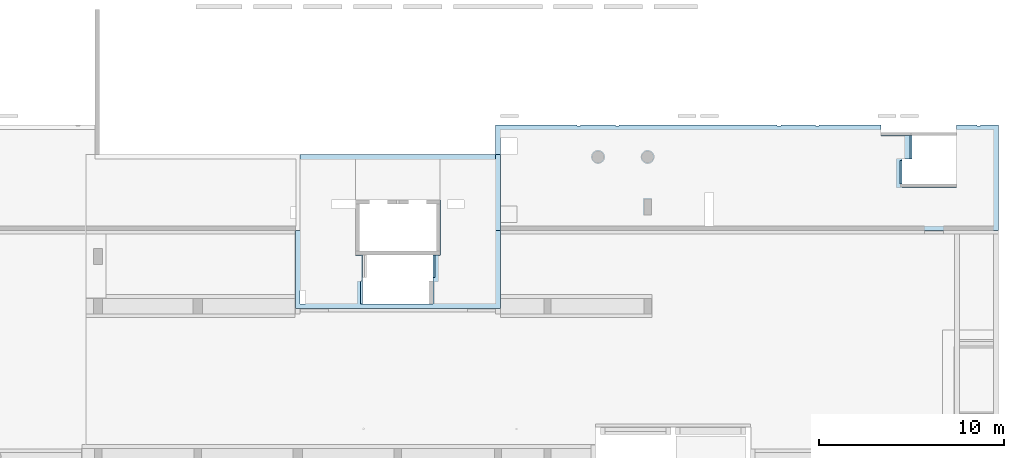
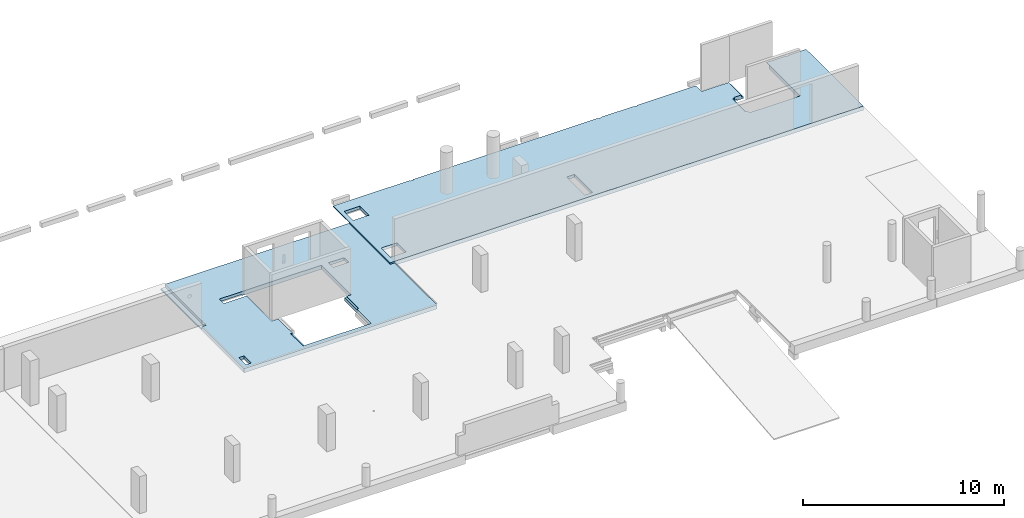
# One storey, part 9 of 10: 2 slabs.
"""IFC2X3 building model written with IfcOpenShell, lengths in millimetres."""

import ifcopenshell
import ifcopenshell.guid

model = None  # the IFC model being written
_history = None  # IfcOwnerHistory: only IFC2X3 demands one
_inside = {}  # id of a spatial element -> (the spatial element, [elements in it])
_under = {}  # id of a project, library or spatial element -> (it, [spatial elements below it])
_declared = {}  # id of a project -> (the project, [libraries it declares])
_typed = {}  # id of a type object -> (the type object, [elements of that type])
_made_of = {}  # id of a material, layer set ... -> (it, [elements and type objects made of it])


def new_model(schema):
    """Start an empty IFC model of exactly this schema.

    Asked for "IFC4X3", IfcOpenShell would pick the latest addendum, in which some entities
    have other attributes; the version numbers below select the first issue.
    IFC2X3 requires an IfcOwnerHistory on every rooted entity: one is made here for all.
    """
    global model, _history
    if schema == "IFC4X3":
        model = ifcopenshell.file(schema_version=(4, 3, 0, 0))
    else:
        model = ifcopenshell.file(schema=schema)
    _inside.clear()
    _under.clear()
    _declared.clear()
    _typed.clear()
    _made_of.clear()
    _history = None
    if model.schema == "IFC2X3":
        org = make("IfcOrganization", Name="unknown")
        user = make(
            "IfcPersonAndOrganization",
            ThePerson=make("IfcPerson", FamilyName="unknown"),
            TheOrganization=org,
        )
        app = make(
            "IfcApplication",
            ApplicationDeveloper=org,
            Version="unknown",
            ApplicationFullName="unknown",
            ApplicationIdentifier="unknown",
        )
        _history = make(
            "IfcOwnerHistory",
            OwningUser=user,
            OwningApplication=app,
            ChangeAction="ADDED",
            CreationDate=0,
        )
    return model


def make(cls, **values):
    """One entity of the class cls with the attributes given. An attribute that is None is left unset."""
    return model.create_entity(
        cls, **{name: value for name, value in values.items() if value is not None}
    )


def entity(cls, *values):
    """Any entity or typed value of the class cls, its attributes in the order of the schema. None: left unset."""
    e = model.create_entity(cls)
    for i, value in enumerate(values):
        if value is not None:
            e[i] = value
    return e


def rooted(cls, **values):
    """An entity with a GlobalId (a new one), such as an element, a storey or a relation."""
    return make(cls, GlobalId=ifcopenshell.guid.new(), OwnerHistory=_history, **values)


def si_unit(unit_type, name, prefix=None):
    """IfcSIUnit, for example si_unit("LENGTHUNIT", "METRE", prefix="MILLI")."""
    return make("IfcSIUnit", UnitType=unit_type, Prefix=prefix, Name=name)


def converted_unit(unit_type, name, factor, base, dimensions=None, offset=None):
    """IfcConversionBasedUnit, such as the inch: factor (a typed value) times the base unit."""
    return make(
        "IfcConversionBasedUnit"
        if offset is None
        else "IfcConversionBasedUnitWithOffset",
        ConversionOffset=offset,
        Dimensions=None
        if dimensions is None
        else entity("IfcDimensionalExponents", *dimensions),
        UnitType=unit_type,
        Name=name,
        ConversionFactor=make(
            "IfcMeasureWithUnit", ValueComponent=factor, UnitComponent=base
        ),
    )


def derived_unit(unit_type, elements):
    """IfcDerivedUnit: a product of units, each with its exponent."""
    return make(
        "IfcDerivedUnit",
        Elements=[
            make("IfcDerivedUnitElement", Unit=unit, Exponent=power)
            for unit, power in elements
        ],
        UnitType=unit_type,
    )


def assignment(units):
    """IfcUnitAssignment: the units of a project."""
    return None if units is None else make("IfcUnitAssignment", Units=units)


def point(xyz):
    """IfcCartesianPoint."""
    return None if xyz is None else make("IfcCartesianPoint", Coordinates=xyz)


def direction(xyz):
    """IfcDirection."""
    return None if xyz is None else make("IfcDirection", DirectionRatios=xyz)


def frame(location, z_axis=None, x_axis=None):
    """IfcAxis2Placement3D, a coordinate frame: its origin and axes. An axis left out is left unset."""
    return make(
        "IfcAxis2Placement3D",
        Location=point(location),
        Axis=direction(z_axis),
        RefDirection=direction(x_axis),
    )


def origin():
    """The frame at (0, 0, 0) with its axes left unset."""
    return frame((0.0, 0.0, 0.0))


def place(relative_to, where):
    """IfcLocalPlacement: puts the frame where relative to a parent placement (None: the world)."""
    return make(
        "IfcLocalPlacement", PlacementRelTo=relative_to, RelativePlacement=where
    )


def context(
    kind, dimensions, precision=None, world=None, true_north=None, identifier=None
):
    """IfcGeometricRepresentationContext, for example the 3D "Model" context."""
    return make(
        "IfcGeometricRepresentationContext",
        ContextIdentifier=identifier,
        ContextType=kind,
        CoordinateSpaceDimension=dimensions,
        Precision=precision,
        WorldCoordinateSystem=world,
        TrueNorth=true_north,
    )


def subcontext(parent, identifier, kind, view, scale=None):
    """IfcGeometricRepresentationSubContext, for example "Body" below "Model"."""
    return make(
        "IfcGeometricRepresentationSubContext",
        ContextIdentifier=identifier,
        ContextType=kind,
        ParentContext=parent,
        TargetScale=scale,
        TargetView=view,
    )


def project(units=None, contexts=None):
    """IfcProject with its units and contexts."""
    return rooted(
        "IfcProject",
        Name="project",
        RepresentationContexts=contexts,
        UnitsInContext=assignment(units),
    )


def spatial(cls, under=None, at=None, **own):
    """A site, building, storey or space (cls), placed at a placement, below another one or the project."""
    s = rooted(cls, ObjectPlacement=at, **own)
    if under is not None:
        _under.setdefault(under.id(), (under, []))[1].append(s)
    return s


def faces_of(points, faces, orient=None, outer=None):
    """IfcFace entities. A face is a list of loops; a loop is a list of indices into points, from 0.

    orient and outer hold one flag for each loop. By default every Orientation is true, the
    first loop of a face is its IfcFaceOuterBound and the others are IfcFaceBound.
    """
    made = []
    for i, loops in enumerate(faces):
        bounds = []
        for j, loop in enumerate(loops):
            is_outer = j == 0 if outer is None else outer[i][j]
            bounds.append(
                make(
                    "IfcFaceOuterBound" if is_outer else "IfcFaceBound",
                    Bound=make("IfcPolyLoop", Polygon=[points[k] for k in loop]),
                    Orientation=True if orient is None else orient[i][j],
                )
            )
        made.append(make("IfcFace", Bounds=bounds))
    return made


def faceted_brep(points, faces, orient=None, outer=None, voids=None):
    """IfcFacetedBrep: a solid bounded by flat faces; with voids (closed shells), ...WithVoids."""
    shared = [point(p) for p in points]
    hull = make("IfcClosedShell", CfsFaces=faces_of(shared, faces, orient, outer))
    if voids is None:
        return make("IfcFacetedBrep", Outer=hull)
    return make(
        "IfcFacetedBrepWithVoids",
        Outer=hull,
        Voids=[
            make(cls, CfsFaces=faces_of(shared, fs, o, b)) for cls, fs, o, b in voids
        ],
    )


def shape(context_of_items, identifier, shape_type, items):
    """IfcShapeRepresentation: the items that make up one representation, for example the "Body"."""
    return make(
        "IfcShapeRepresentation",
        ContextOfItems=context_of_items,
        RepresentationIdentifier=identifier,
        RepresentationType=shape_type,
        Items=items,
    )


def material(Name=None, Category=None):
    """IfcMaterial."""
    return make("IfcMaterial", Name=Name, Category=Category)


def made_of(thing, what):
    """Note that an element or type object is made of a material, layer set ...; save() writes the relation."""
    if what is not None:
        _made_of.setdefault(what.id(), (what, []))[1].append(thing)
    return thing


def element(
    cls,
    number,
    at=None,
    inside=None,
    cuts=None,
    type_object=None,
    material=None,
    context=None,
    identifier="Body",
    shape_type=None,
    held_by="IfcProductDefinitionShape",
    body=None,
    shapes=None,
    **own,
):
    """One element of the class cls, such as IfcWall. Its Tag is "e" and its number.

    at: its placement. inside: the storey or other place that contains it. cuts: it is an
    opening in that element (IfcRelVoidsElement). A single representation is given by context,
    identifier, shape_type and body (its items); several are given by shapes. held_by: the class
    of the entity that holds the representations. save() writes the other relations.
    """
    e = rooted(cls, Tag="e%d" % number, ObjectPlacement=at, **own)
    if body is not None:
        shapes = [shape(context, identifier, shape_type, body)]
    if shapes is not None:
        e.Representation = make(held_by, Representations=shapes)
    if inside is not None:
        _inside.setdefault(inside.id(), (inside, []))[1].append(e)
    if cuts is not None:
        rooted(
            "IfcRelVoidsElement", RelatingBuildingElement=cuts, RelatedOpeningElement=e
        )
    if type_object is not None:
        _typed.setdefault(type_object.id(), (type_object, []))[1].append(e)
    return made_of(e, material)


def aggregate(whole, parts):
    """IfcRelAggregates: a whole, such as a stair, and the parts it consists of."""
    return rooted("IfcRelAggregates", RelatingObject=whole, RelatedObjects=parts)


def save(model, path):
    """Write the relations noted so far, then the file.

    IfcRelAggregates (storeys below a building ...), IfcRelContainedInSpatialStructure (elements
    in a storey), IfcRelDefinesByType, IfcRelAssociatesMaterial and IfcRelDeclares: one each for
    every whole, place, type object, material and project.
    """
    for whole, parts in _under.values():
        aggregate(whole, parts)
    for where, things in _inside.values():
        rooted(
            "IfcRelContainedInSpatialStructure",
            RelatedElements=things,
            RelatingStructure=where,
        )
    for kind, things in _typed.values():
        rooted("IfcRelDefinesByType", RelatedObjects=things, RelatingType=kind)
    for what, things in _made_of.values():
        rooted("IfcRelAssociatesMaterial", RelatedObjects=things, RelatingMaterial=what)
    for by, libraries in _declared.values():
        rooted("IfcRelDeclares", RelatingContext=by, RelatedDefinitions=libraries)
    model.write(path)


model = new_model("IFC2X3")

# Units and contexts
model_context = context("Model", 3, precision=0.01, world=origin(), true_north=direction((6.12303176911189e-17, 1.0)))
body_context = subcontext(model_context, "Body", "Model", "MODEL_VIEW")
ifc_project = project(units=[si_unit("LENGTHUNIT", "METRE", prefix="MILLI"), si_unit("AREAUNIT", "SQUARE_METRE"), si_unit("VOLUMEUNIT", "CUBIC_METRE"), converted_unit("PLANEANGLEUNIT", "DEGREE", entity("IfcRatioMeasure", 0.0174532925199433), si_unit("PLANEANGLEUNIT", "RADIAN"), dimensions=[0, 0, 0, 0, 0, 0, 0]), si_unit("MASSUNIT", "GRAM", prefix="KILO"), derived_unit("MASSDENSITYUNIT", [(si_unit("MASSUNIT", "GRAM", prefix="KILO"), 1), (si_unit("LENGTHUNIT", "METRE"), -3)]), si_unit("TIMEUNIT", "SECOND"), si_unit("FREQUENCYUNIT", "HERTZ"), si_unit("THERMODYNAMICTEMPERATUREUNIT", "DEGREE_CELSIUS"), derived_unit("THERMALTRANSMITTANCEUNIT", [(si_unit("MASSUNIT", "GRAM", prefix="KILO"), 1), (si_unit("THERMODYNAMICTEMPERATUREUNIT", "KELVIN"), -1), (si_unit("TIMEUNIT", "SECOND"), -3)]), derived_unit("VOLUMETRICFLOWRATEUNIT", [(si_unit("LENGTHUNIT", "METRE"), 3), (si_unit("TIMEUNIT", "SECOND"), -1)]), si_unit("ELECTRICCURRENTUNIT", "AMPERE"), si_unit("ELECTRICVOLTAGEUNIT", "VOLT"), si_unit("POWERUNIT", "WATT"), si_unit("FORCEUNIT", "NEWTON", prefix="KILO"), si_unit("ILLUMINANCEUNIT", "LUX"), si_unit("LUMINOUSFLUXUNIT", "LUMEN"), si_unit("LUMINOUSINTENSITYUNIT", "CANDELA"), derived_unit("USERDEFINED", [(si_unit("MASSUNIT", "GRAM", prefix="KILO"), -1), (si_unit("LENGTHUNIT", "METRE"), -2), (si_unit("TIMEUNIT", "SECOND"), 3), (si_unit("LUMINOUSFLUXUNIT", "LUMEN"), 1)]), derived_unit("LINEARVELOCITYUNIT", [(si_unit("LENGTHUNIT", "METRE"), 1), (si_unit("TIMEUNIT", "SECOND"), -1)]), si_unit("PRESSUREUNIT", "PASCAL"), derived_unit("USERDEFINED", [(si_unit("LENGTHUNIT", "METRE"), -2), (si_unit("MASSUNIT", "GRAM", prefix="KILO"), 1), (si_unit("TIMEUNIT", "SECOND"), -2)])], contexts=[model_context])

# Site, building, storey
site_placement = place(None, origin())
site = spatial("IfcSite", under=ifc_project, at=site_placement, Name="Default", CompositionType="ELEMENT")
building_placement = place(site_placement, origin())
building = spatial("IfcBuilding", under=site, at=building_placement, Name="niet gebruiken", CompositionType="ELEMENT")
storey_placement = place(building_placement, frame((0.0, 0.0, 6610.0)))
storey = spatial("IfcBuildingStorey", under=building, at=storey_placement, Name="01c derde tussenverdieping", CompositionType="ELEMENT", Elevation=6610.0)

# Slabs
ifc_material = material(Name="NLRS_f2_beton ihwg")
slab_1_placement = place(storey_placement, origin())
element("IfcSlab", 1, at=slab_1_placement, inside=storey, material=ifc_material, Name="Floor:NLRS_23.21_FL_breedplaat d=70/250_schil apart - gevlinderd_gen", ObjectType="Floor:NLRS_23.21_FL_breedplaat d=70/250_schil apart - gevlinderd_gen", PredefinedType="FLOOR", context=body_context, shape_type="Brep", body=[
    faceted_brep([(117880.0, 46496.0, -250.0), (117860.0, 46496.0, -250.0), (117860.0, 46496.0, -180.0), (97325.0, 46496.0, -180.0), (97325.0, 46496.0, -40.0), (117880.0, 46496.0, -40.0), (123970.0, 46496.0, -180.0), (121950.0, 46496.0, -180.0), (121950.0, 46496.0, -250.0), (121930.0, 46496.0, -250.0), (121930.0, 46496.0, -40.0), (124200.0, 46496.0, -40.0), (124200.0, 46496.0, -250.0), (123970.0, 46496.0, -250.0), (105495.0, 42776.0, -250.0), (105495.0, 41886.0, -250.0), (105055.0, 41886.0, -250.0), (105055.0, 42776.0, -250.0), (105591.376563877, 44957.1143943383, -250.0), (105562.753127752, 44883.2287886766, -250.0), (105529.958076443, 44798.5750029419, -250.0), (105458.260411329, 44770.799179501, -250.0), (105386.562746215, 44743.0233560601, -250.0), (105314.865081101, 44715.2475326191, -250.0), (105243.167415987, 44687.4717091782, -250.0), (105187.38604288, 44715.2475326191, -250.0), (105131.604669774, 44743.0233560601, -250.0), (105075.823296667, 44770.799179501, -250.0), (105020.041923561, 44798.5750029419, -250.0), (104997.531442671, 44856.6812522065, -250.0), (104975.020961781, 44914.787501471, -250.0), (104958.623436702, 44957.1143928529, -250.0), (104930.0, 45031.0, -250.0), (104958.623436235, 45104.8856059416, -250.0), (104987.246872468, 45178.7712118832, -250.0), (105020.041923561, 45263.4249970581, -250.0), (105091.739588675, 45291.200820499, -250.0), (105163.437253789, 45318.9766439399, -250.0), (105235.134918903, 45346.7524673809, -250.0), (105306.832584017, 45374.5282908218, -250.0), (105362.613957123, 45346.7524673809, -250.0), (105418.39533023, 45318.9766439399, -250.0), (105474.176703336, 45291.200820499, -250.0), (105529.958076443, 45263.4249970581, -250.0), (105552.468557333, 45205.3187477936, -250.0), (105574.979038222, 45147.212498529, -250.0), (105591.376563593, 45104.8856063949, -250.0), (105620.0, 45031.0, -250.0), (121950.0, 43376.0, -250.0), (118710.0, 43376.0, -250.0), (118710.0, 44926.0, -250.0), (119005.0, 44926.0, -250.0), (119005.0, 43396.0, -250.0), (121930.0, 43396.0, -250.0), (119545.0, 44926.0, -250.0), (119175.0, 44926.0, -250.0), (119175.0, 46156.0, -250.0), (117860.0, 46156.0, -250.0), (117880.0, 46176.0, -250.0), (119545.0, 46176.0, -250.0), (102916.376563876, 44957.1143943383, -250.0), (102887.753127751, 44883.2287886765, -250.0), (102854.958076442, 44798.5750029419, -250.0), (102783.260411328, 44770.799179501, -250.0), (102711.562746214, 44743.0233560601, -250.0), (102639.8650811, 44715.2475326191, -250.0), (102568.167415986, 44687.4717091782, -250.0), (102512.386042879, 44715.2475326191, -250.0), (102456.604669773, 44743.0233560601, -250.0), (102400.823296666, 44770.799179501, -250.0), (102345.04192356, 44798.5750029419, -250.0), (102322.53144267, 44856.6812522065, -250.0), (102300.02096178, 44914.787501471, -250.0), (102283.623436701, 44957.1143928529, -250.0), (102255.0, 45031.0, -250.0), (102283.623436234, 45104.8856059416, -250.0), (102312.246872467, 45178.7712118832, -250.0), (102345.04192356, 45263.4249970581, -250.0), (102416.739588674, 45291.200820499, -250.0), (102488.437253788, 45318.9766439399, -250.0), (102560.134918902, 45346.7524673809, -250.0), (102631.832584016, 45374.5282908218, -250.0), (102687.613957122, 45346.7524673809, -250.0), (102743.395330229, 45318.9766439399, -250.0), (102799.176703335, 45291.200820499, -250.0), (102854.958076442, 45263.4249970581, -250.0), (102877.468557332, 45205.3187477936, -250.0), (102899.979038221, 45147.212498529, -250.0), (102916.376563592, 45104.8856063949, -250.0), (102945.0, 45031.0, -250.0), (124200.0, 41061.0, -250.0), (123950.0, 41061.0, -250.0), (97325.0, 41061.0, -250.0), (97075.0, 41061.0, -250.0), (97075.0, 45156.0, -250.0), (97305.0, 45156.0, -250.0), (97305.0, 42386.0, -250.0), (97325.0, 42386.0, -250.0), (97325.0, 41486.0, -250.0), (97305.0, 41486.0, -250.0), (97305.0, 41291.0, -250.0), (108375.0, 41291.0, -250.0), (108375.0, 41311.0, -250.0), (108825.0, 41311.0, -250.0), (108825.0, 41291.0, -250.0), (123970.0, 41291.0, -250.0), (117705.0, 46746.0, -40.0), (114535.0, 46746.0, -40.0), (114535.0, 46746.0, 0.0), (117880.0, 46746.0, 0.0), (117880.0, 46746.0, -40.0), (114335.0, 46746.0, -40.0), (112465.0, 46746.0, -40.0), (112465.0, 46746.0, 0.0), (114335.0, 46746.0, 0.0), (106905.0, 46746.0, -40.0), (103735.0, 46746.0, -40.0), (103735.0, 46746.0, 0.0), (112265.0, 46746.0, 0.0), (112265.0, 46746.0, -40.0), (109095.0, 46746.0, -40.0), (108125.0, 46746.0, -40.0), (107875.0, 46746.0, -40.0), (103535.0, 46746.0, -40.0), (101665.0, 46746.0, -40.0), (101665.0, 46746.0, 0.0), (103535.0, 46746.0, 0.0), (124200.0, 46746.0, -40.0), (123240.0, 46746.0, -40.0), (123240.0, 46746.0, 0.0), (123950.0, 46746.0, 0.0), (124200.0, 46746.0, 0.0), (97325.0, 46746.0, -40.0), (97075.0, 46746.0, -40.0), (97075.0, 46746.0, 0.0), (97325.0, 46746.0, 0.0), (101465.0, 46746.0, 0.0), (101465.0, 46746.0, -40.0), (98295.0, 46746.0, -40.0), (123040.0, 46746.0, -40.0), (121930.0, 46746.0, -40.0), (121930.0, 46746.0, 0.0), (123040.0, 46746.0, 0.0), (112265.0, 46706.0, -40.0), (112465.0, 46706.0, -40.0), (114335.0, 46706.0, -40.0), (114535.0, 46706.0, -40.0), (97325.0, 46056.0, -40.0), (97325.0, 45156.0, -40.0), (97075.0, 45156.0, -40.0), (101465.0, 46706.0, -40.0), (101665.0, 46706.0, -40.0), (103535.0, 46706.0, -40.0), (103735.0, 46706.0, -40.0), (123040.0, 46706.0, -40.0), (123240.0, 46706.0, -40.0), (97075.0, 41061.0, 0.0), (97325.0, 41061.0, 0.0), (97325.0, 41486.0, 0.0), (97325.0, 42386.0, 0.0), (97325.0, 45156.0, 0.0), (98225.0, 41486.0, 0.0), (108375.0, 41311.0, 0.0), (108825.0, 41311.0, 0.0), (120225.0, 41061.0, 0.0), (119005.0, 43396.0, 0.0), (121930.0, 43396.0, 0.0), (121250.0, 41061.0, 0.0), (123950.0, 41061.0, 0.0), (124200.0, 41061.0, 0.0), (123240.0, 46706.0, 0.0), (123040.0, 46706.0, 0.0), (121930.0, 46496.0, 0.0), (118895.0, 43576.0, 0.0), (119005.0, 43576.0, 0.0), (114335.0, 46706.0, 0.0), (114535.0, 46706.0, 0.0), (117880.0, 46176.0, 0.0), (118895.0, 44846.0, 0.0), (119005.0, 44926.0, 0.0), (119005.0, 44846.0, 0.0), (119435.0, 46176.0, 0.0), (119435.0, 44926.0, 0.0), (117880.0, 46496.0, 0.0), (112465.0, 46706.0, 0.0), (108825.0, 43111.0, 0.0), (112265.0, 46706.0, 0.0), (108375.0, 43111.0, 0.0), (103735.0, 46706.0, 0.0), (103535.0, 46706.0, 0.0), (98225.0, 42386.0, 0.0), (101665.0, 46706.0, 0.0), (101465.0, 46706.0, 0.0), (98225.0, 45156.0, 0.0), (98225.0, 46056.0, 0.0), (97325.0, 46056.0, 0.0), (97075.0, 41061.0, -90.0), (97075.0, 45156.0, -90.0), (119545.0, 46176.0, -130.0), (119545.0, 44926.0, -130.0), (119435.0, 44926.0, -130.0), (119005.0, 44926.0, -180.0), (119175.0, 44926.0, -180.0), (119005.0, 44846.0, -130.0), (119005.0, 43576.0, -130.0), (97325.0, 46056.0, -180.0), (98225.0, 46056.0, -180.0), (97325.0, 42386.0, -180.0), (97325.0, 41486.0, -180.0), (98225.0, 45156.0, -180.0), (97305.0, 45156.0, -180.0), (98225.0, 41486.0, -180.0), (98225.0, 42386.0, -180.0), (119435.0, 46176.0, -130.0), (118895.0, 44846.0, -130.0), (118895.0, 43576.0, -130.0), (108375.0, 43111.0, -180.0), (108825.0, 43111.0, -180.0), (108825.0, 41311.0, -180.0), (108375.0, 41311.0, -180.0), (118710.0, 43376.0, -180.0), (108825.0, 41291.0, -180.0), (117860.0, 46156.0, -180.0), (105529.958076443, 45263.4249970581, -180.0), (105552.468557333, 45205.3187477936, -180.0), (105574.979038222, 45147.212498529, -180.0), (105597.489519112, 45089.1062492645, -180.0), (105620.0, 45031.0, -180.0), (105597.489519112, 44972.8937507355, -180.0), (105574.979038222, 44914.787501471, -180.0), (105552.468557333, 44856.6812522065, -180.0), (105529.958076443, 44798.5750029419, -180.0), (105495.0, 42776.0, -180.0), (105495.0, 41886.0, -180.0), (108375.0, 41291.0, -180.0), (105055.0, 41886.0, -180.0), (97305.0, 41291.0, -180.0), (97305.0, 41486.0, -180.0), (102631.832584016, 44687.4717091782, -180.0), (102560.134918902, 44715.2475326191, -180.0), (102488.437253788, 44743.0233560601, -180.0), (102416.739588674, 44770.799179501, -180.0), (102345.04192356, 44798.5750029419, -180.0), (97305.0, 42386.0, -180.0), (102322.53144267, 44856.6812522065, -180.0), (102300.02096178, 44914.787501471, -180.0), (102277.510480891, 44972.8937507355, -180.0), (102255.0, 45031.0, -180.0), (102277.510480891, 45089.1062492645, -180.0), (102300.02096178, 45147.212498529, -180.0), (102322.53144267, 45205.3187477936, -180.0), (102345.04192356, 45263.4249970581, -180.0), (102400.823296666, 45291.200820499, -180.0), (102456.604669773, 45318.9766439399, -180.0), (102512.386042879, 45346.7524673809, -180.0), (102568.167415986, 45374.5282908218, -180.0), (105243.167415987, 45374.5282908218, -180.0), (105314.865081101, 45346.7524673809, -180.0), (102639.8650811, 45346.7524673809, -180.0), (102711.562746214, 45318.9766439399, -180.0), (102783.260411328, 45291.200820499, -180.0), (102854.958076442, 45263.4249970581, -180.0), (105187.38604288, 45346.7524673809, -180.0), (105131.604669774, 45318.9766439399, -180.0), (105075.823296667, 45291.200820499, -180.0), (105020.041923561, 45263.4249970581, -180.0), (102877.468557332, 45205.3187477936, -180.0), (102899.979038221, 45147.212498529, -180.0), (102922.489519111, 45089.1062492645, -180.0), (102945.0, 45031.0, -180.0), (104997.531442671, 45205.3187477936, -180.0), (104975.020961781, 45147.212498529, -180.0), (104952.510480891, 45089.1062492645, -180.0), (104930.0, 45031.0, -180.0), (102922.489519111, 44972.8937507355, -180.0), (102899.979038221, 44914.787501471, -180.0), (102877.468557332, 44856.6812522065, -180.0), (102854.958076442, 44798.5750029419, -180.0), (104952.510480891, 44972.8937507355, -180.0), (104975.020961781, 44914.787501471, -180.0), (104997.531442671, 44856.6812522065, -180.0), (105020.041923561, 44798.5750029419, -180.0), (105055.0, 42776.0, -180.0), (105091.739588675, 44770.799179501, -180.0), (105163.437253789, 44743.0233560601, -180.0), (105235.134918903, 44715.2475326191, -180.0), (105306.832584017, 44687.4717091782, -180.0), (105362.613957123, 44715.2475326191, -180.0), (105418.39533023, 44743.0233560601, -180.0), (105474.176703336, 44770.799179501, -180.0), (102687.613957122, 44715.2475326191, -180.0), (102743.395330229, 44743.0233560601, -180.0), (102799.176703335, 44770.799179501, -180.0), (105458.260411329, 45291.200820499, -180.0), (105386.562746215, 45318.9766439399, -180.0), (118710.0, 44926.0, -180.0), (119175.0, 46156.0, -180.0), (123970.0, 41291.0, -180.0), (121950.0, 43376.0, -180.0)], [[[0, 1, 2, 3, 4, 5]], [[6, 7, 8, 9, 10, 11, 12, 13]], [[14, 15, 16, 17]], [[18, 19, 20, 21, 22, 23, 24, 25, 26, 27, 28, 29, 30, 31, 32, 33, 34, 35, 36, 37, 38, 39, 40, 41, 42, 43, 44, 45, 46, 47]], [[48, 49, 50, 51, 52, 53, 9, 8]], [[54, 55, 56, 57, 1, 0, 58, 59]], [[60, 61, 62, 63, 64, 65, 66, 67, 68, 69, 70, 71, 72, 73, 74, 75, 76, 77, 78, 79, 80, 81, 82, 83, 84, 85, 86, 87, 88, 89]], [[90, 91, 92, 93, 94, 95, 96, 97, 98, 99, 100, 101, 102, 103, 104, 105, 13, 12]], [[106, 107, 108, 109, 110]], [[111, 112, 113, 114]], [[115, 116, 117, 118, 119, 120, 121, 122]], [[123, 124, 125, 126]], [[127, 128, 129, 130, 131]], [[132, 133, 134, 135, 136, 137, 138]], [[139, 140, 141, 142]], [[143, 144, 112, 111, 145, 146, 107, 106, 110, 5, 4, 147, 148, 149, 133, 132, 138, 137, 150, 151, 124, 123, 152, 153, 116, 115, 122, 121, 120, 119]], [[154, 155, 128, 127, 11, 10, 140, 139]], [[156, 157, 158]], [[156, 158, 159]], [[160, 156, 159]], [[134, 156, 160]], [[158, 157, 161]], [[157, 162, 161]], [[163, 162, 157]], [[157, 164, 163]], [[165, 163, 164]], [[165, 164, 166]], [[166, 164, 167]], [[166, 167, 168]], [[166, 168, 169]], [[166, 169, 131]], [[131, 130, 166]], [[166, 130, 170]], [[129, 170, 130]], [[166, 170, 171]], [[171, 172, 166]], [[171, 141, 172]], [[142, 141, 171]], [[173, 163, 165]], [[173, 165, 174]], [[173, 175, 163]], [[175, 173, 176]], [[173, 177, 176]], [[178, 177, 173]], [[177, 178, 179]], [[180, 179, 178]], [[177, 179, 181]], [[182, 181, 179]], [[176, 177, 183]], [[176, 183, 109]], [[109, 108, 176]], [[163, 175, 184]], [[184, 175, 113]], [[175, 114, 113]], [[163, 184, 185]], [[184, 186, 185]], [[186, 118, 185]], [[118, 187, 185]], [[187, 118, 117]], [[188, 187, 117]], [[162, 187, 188]], [[188, 189, 162]], [[161, 162, 189]], [[161, 189, 190]], [[189, 191, 190]], [[126, 191, 189]], [[125, 191, 126]], [[192, 190, 191]], [[192, 193, 190]], [[192, 194, 193]], [[194, 192, 136]], [[135, 194, 136]], [[195, 194, 135]], [[195, 135, 134]], [[134, 160, 195]], [[193, 160, 190]], [[159, 190, 160]], [[90, 12, 11, 127, 131, 169]], [[93, 196, 156, 134, 133, 149, 197, 94]], [[53, 52, 165, 166]], [[53, 166, 172, 141, 140, 10, 9]], [[54, 59, 198, 199]], [[55, 54, 199, 200, 182, 179, 201, 202]], [[51, 201, 179, 180, 203, 204, 174, 165, 52]], [[164, 157, 156, 196, 93, 92, 91, 90, 169, 168, 167]], [[147, 205, 206, 194, 195]], [[147, 195, 160, 148]], [[207, 159, 158, 208, 98, 97]], [[209, 210, 95, 94, 197, 149, 148, 160, 193]], [[209, 193, 194, 206]], [[211, 161, 190, 212]], [[199, 198, 213, 200]], [[203, 214, 215, 204]], [[213, 181, 182, 200]], [[58, 0, 5, 110, 109, 183, 177]], [[198, 59, 58, 177, 181, 213]], [[214, 203, 180, 178]], [[215, 214, 178, 173]], [[215, 173, 174, 204]], [[185, 187, 216, 217]], [[163, 185, 217, 218]], [[219, 162, 163, 218, 103, 102]], [[187, 162, 219, 216]], [[212, 190, 159, 207]], [[208, 158, 161, 211]], [[218, 220, 221]], [[217, 220, 218]], [[220, 217, 222]], [[2, 222, 217]], [[217, 223, 2]], [[217, 216, 223]], [[216, 224, 223]], [[216, 225, 224]], [[216, 226, 225]], [[216, 227, 226]], [[216, 228, 227]], [[216, 229, 228]], [[216, 230, 229]], [[216, 231, 230]], [[231, 216, 232]], [[216, 233, 232]], [[219, 233, 216]], [[233, 219, 234]], [[235, 233, 234]], [[235, 234, 211]], [[234, 236, 211]], [[236, 208, 211]], [[208, 236, 237]], [[238, 235, 211]], [[211, 239, 238]], [[211, 240, 239]], [[211, 241, 240]], [[211, 242, 241]], [[211, 212, 242]], [[242, 212, 209]], [[212, 207, 209]], [[207, 210, 209]], [[210, 207, 243]], [[209, 244, 242]], [[209, 245, 244]], [[209, 246, 245]], [[209, 247, 246]], [[247, 209, 206]], [[206, 248, 247]], [[206, 249, 248]], [[206, 250, 249]], [[206, 251, 250]], [[206, 252, 251]], [[206, 253, 252]], [[206, 254, 253]], [[206, 255, 254]], [[3, 255, 206]], [[206, 205, 3]], [[3, 2, 256]], [[255, 3, 256]], [[2, 257, 256]], [[256, 258, 255]], [[256, 259, 258]], [[256, 260, 259]], [[256, 261, 260]], [[261, 256, 262]], [[261, 262, 263]], [[261, 263, 264]], [[261, 264, 265]], [[265, 266, 261]], [[265, 267, 266]], [[265, 268, 267]], [[265, 269, 268]], [[269, 265, 270]], [[269, 270, 271]], [[269, 271, 272]], [[269, 272, 273]], [[273, 274, 269]], [[273, 275, 274]], [[273, 276, 275]], [[273, 277, 276]], [[277, 273, 278]], [[277, 278, 279]], [[277, 279, 280]], [[277, 280, 281]], [[277, 281, 282]], [[282, 281, 283]], [[282, 283, 284]], [[282, 284, 285]], [[282, 285, 286]], [[232, 286, 287]], [[282, 286, 232]], [[232, 287, 288]], [[232, 288, 289]], [[232, 289, 231]], [[282, 238, 290]], [[282, 235, 238]], [[282, 290, 291]], [[282, 291, 292]], [[282, 292, 277]], [[2, 223, 293]], [[2, 293, 294]], [[2, 294, 257]], [[295, 220, 222]], [[296, 295, 222]], [[201, 295, 296]], [[296, 202, 201]], [[297, 221, 220]], [[298, 297, 220]], [[298, 6, 297]], [[7, 6, 298]], [[6, 13, 105, 297]], [[221, 297, 105, 104]], [[234, 101, 100, 236]], [[221, 104, 103, 218]], [[234, 219, 102, 101]], [[237, 236, 100, 99]], [[243, 96, 95, 210]], [[208, 237, 99, 98]], [[243, 207, 97, 96]], [[235, 282, 17, 16]], [[233, 235, 16, 15]], [[232, 233, 15, 14]], [[282, 232, 14, 17]], [[281, 280, 279, 278, 273, 32, 31, 30, 29, 28]], [[25, 285, 284]], [[25, 24, 285]], [[26, 284, 283]], [[24, 286, 285]], [[20, 19, 18, 47, 227, 228, 229, 230, 231]], [[231, 289, 20]], [[283, 281, 27]], [[286, 23, 287]], [[288, 21, 289]], [[287, 23, 22]], [[281, 28, 27]], [[26, 283, 27]], [[286, 24, 23]], [[20, 289, 21]], [[284, 26, 25]], [[22, 288, 287]], [[21, 288, 22]], [[223, 224, 225, 226, 227, 47, 46, 45, 44, 43]], [[262, 38, 37]], [[40, 39, 257]], [[41, 294, 293]], [[293, 223, 42]], [[39, 38, 256]], [[35, 34, 33, 32, 273, 272, 271, 270, 265]], [[265, 264, 35]], [[256, 38, 262]], [[263, 36, 264]], [[294, 40, 257]], [[294, 41, 40]], [[223, 43, 42]], [[41, 293, 42]], [[35, 264, 36]], [[37, 263, 262]], [[39, 256, 257]], [[36, 263, 37]], [[261, 266, 267, 268, 269, 89, 88, 87, 86, 85]], [[254, 80, 79]], [[82, 81, 258]], [[83, 259, 260]], [[260, 261, 84]], [[81, 80, 255]], [[77, 76, 75, 74, 247, 248, 249, 250, 251]], [[251, 252, 77]], [[255, 80, 254]], [[253, 78, 252]], [[259, 82, 258]], [[259, 83, 82]], [[261, 85, 84]], [[83, 260, 84]], [[77, 252, 78]], [[79, 253, 254]], [[81, 255, 258]], [[78, 253, 79]], [[242, 244, 245, 246, 247, 74, 73, 72, 71, 70]], [[67, 239, 240]], [[67, 66, 239]], [[68, 240, 241]], [[66, 238, 239]], [[62, 61, 60, 89, 269, 274, 275, 276, 277]], [[277, 292, 62]], [[241, 242, 69]], [[238, 65, 290]], [[291, 63, 292]], [[290, 65, 64]], [[242, 70, 69]], [[68, 241, 69]], [[238, 66, 65]], [[62, 292, 63]], [[240, 68, 67]], [[64, 291, 290]], [[63, 291, 64]], [[222, 2, 1, 57]], [[222, 57, 56, 296]], [[296, 56, 55, 202]], [[295, 201, 51, 50]], [[295, 50, 49, 220]], [[220, 49, 48, 298]], [[7, 298, 48, 8]], [[4, 3, 205, 147]], [[111, 114, 175, 145]], [[145, 175, 176, 146]], [[143, 186, 184, 144]], [[153, 152, 189, 188]], [[150, 192, 191, 151]], [[154, 171, 170, 155]], [[146, 176, 108, 107]], [[119, 118, 186, 143]], [[144, 184, 113, 112]], [[123, 126, 189, 152]], [[153, 188, 117, 116]], [[137, 136, 192, 150]], [[151, 191, 125, 124]], [[139, 142, 171, 154]], [[155, 170, 129, 128]]]),
])
slab_2_placement = place(storey_placement, origin())
element("IfcSlab", 2, at=slab_2_placement, inside=storey, Name="Floor:NLRS_23.21_FL_breedplaat d=70/250_schil apart_gen", ObjectType="Floor:NLRS_23.21_FL_breedplaat d=70/250_schil apart_gen", PredefinedType="FLOOR", context=body_context, shape_type="Brep", body=[
    faceted_brep([(89525.0, 39746.0, -340.0), (89899.9997832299, 39746.0, -340.0), (89899.9997832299, 38526.0, -340.0), (89899.9997832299, 38306.0, -340.0), (89899.9997832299, 37106.0, -340.0), (93480.0, 37106.0, -340.0), (93699.9997832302, 37106.0, -340.0), (93699.9997832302, 38326.0, -340.0), (93700.0, 38526.0, -340.0), (93700.0, 39746.0, -340.0), (94075.0, 39746.0, -340.0), (94075.0, 42696.0, -340.0), (94095.0, 42696.0, -340.0), (94095.0, 39726.0, -340.0), (93975.0, 39726.0, -340.0), (93975.0, 38306.0, -340.0), (93749.9997832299, 38306.0, -340.0), (93749.9997832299, 37086.0, -340.0), (97095.0, 37086.0, -340.0), (97095.0, 44926.0, -340.0), (94075.0, 44926.0, -340.0), (89525.0, 44926.0, -340.0), (86505.0, 44926.0, -340.0), (86505.0, 37826.0, -340.0), (86525.0, 37826.0, -340.0), (86525.0, 37106.0, -340.0), (86825.0, 37106.0, -340.0), (86825.0, 37086.0, -340.0), (89629.9997832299, 37086.0, -340.0), (89629.9997832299, 38306.0, -340.0), (89850.0, 38306.0, -340.0), (89850.0, 39726.0, -340.0), (89505.0, 39726.0, -340.0), (89505.0, 42256.0, -340.0), (89525.0, 42256.0, -340.0), (86275.0, 36856.0, -340.0), (86275.0, 44906.0, -340.0), (86275.0, 45156.0, -340.0), (97325.0, 45156.0, -340.0), (97325.0, 36856.0, -340.0), (97075.0, 36856.0, -340.0), (89899.9997832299, 39746.0, -90.0), (89525.0, 39746.0, -90.0), (89525.0, 42256.0, -90.0), (88227.4998491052, 42256.0, -90.0), (88227.4998491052, 42696.0, -90.0), (94075.0, 42696.0, -90.0), (94075.0, 39746.0, -90.0), (93810.0, 39746.0, -90.0), (93810.0, 38526.0, -90.0), (93699.9997832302, 38526.0, -90.0), (93699.9997832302, 38326.0, -90.0), (93699.9997832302, 37106.0, -90.0), (93589.99978323, 37106.0, -90.0), (89789.9997832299, 37106.0, -90.0), (89789.9997832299, 38326.0, -90.0), (89899.9997832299, 38326.0, -90.0), (89899.9997832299, 38526.0, -90.0), (86825.0, 37826.0, -90.0), (86825.0, 37106.0, -90.0), (86525.0, 37106.0, -90.0), (86525.0, 37826.0, -90.0), (86275.0, 36856.0, -90.0), (86925.0, 36856.0, -90.0), (88055.0, 36856.0, -90.0), (95545.0, 36856.0, -90.0), (96675.0, 36856.0, -90.0), (97075.0, 36856.0, -90.0), (97325.0, 36856.0, -90.0), (97325.0, 41061.0, -90.0), (97075.0, 41061.0, -90.0), (97075.0, 45156.0, -90.0), (86525.0, 45156.0, -90.0), (86525.0, 44906.0, -90.0), (86525.0, 41061.0, -90.0), (86275.0, 41061.0, -90.0), (94480.0, 42701.0, -90.0), (95380.0, 42701.0, -90.0), (95380.0, 42251.0, -90.0), (94480.0, 42251.0, -90.0), (86275.0, 41061.0, -250.0), (86275.0, 41703.599707, -250.0), (86275.0, 42318.599707, -250.0), (86275.0, 44906.0, -250.0), (86275.0, 45136.0, -250.0), (86275.0, 45136.0, -290.0), (86275.0, 45156.0, -290.0), (94045.0, 45156.0, -290.0), (94045.0, 45156.0, -220.0), (86525.0, 45156.0, -220.0), (97075.0, 45156.0, -250.0), (97305.0, 45156.0, -250.0), (97325.0, 45156.0, -250.0), (97325.0, 42386.0, -250.0), (97325.0, 41486.0, -250.0), (97325.0, 41061.0, -250.0), (88227.4998491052, 42696.0, -270.0), (89525.0, 42696.0, -270.0), (89525.0, 42696.0, -340.0), (94075.0, 42696.0, -270.0), (89899.9997832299, 38326.0, -130.0), (89899.9997832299, 38306.0, -130.0), (89899.9997832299, 37106.0, -130.0), (89789.9997832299, 37106.0, -130.0), (93699.9997832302, 38526.0, -340.0), (93700.0, 38526.0, -130.0), (93700.0, 39746.0, -130.0), (93810.0, 39746.0, -130.0), (93810.0, 38526.0, -130.0), (93699.9997832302, 38526.0, -130.0), (93700.0, 38526.0, -90.0), (88227.4998491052, 42256.0, -270.0), (89505.0, 42256.0, -270.0), (86825.0, 37826.0, -270.0), (86825.0, 37106.0, -270.0), (86525.0, 37826.0, -270.0), (89789.9997832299, 38326.0, -130.0), (86525.0, 41061.0, -250.0), (86525.0, 45136.0, -250.0), (86525.0, 45136.0, -220.0), (86505.0, 37826.0, -270.0), (86505.0, 44926.0, -270.0), (89525.0, 44926.0, -270.0), (94075.0, 44926.0, -270.0), (97095.0, 44926.0, -270.0), (97095.0, 37086.0, -270.0), (93749.9997832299, 37086.0, -270.0), (93749.9997832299, 38306.0, -270.0), (93975.0, 38306.0, -270.0), (93975.0, 39726.0, -270.0), (94095.0, 39726.0, -270.0), (94095.0, 42696.0, -270.0), (94075.0, 42716.0, -270.0), (89525.0, 42716.0, -270.0), (89505.0, 39726.0, -270.0), (89850.0, 39726.0, -270.0), (89850.0, 38306.0, -270.0), (89629.9997832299, 38306.0, -270.0), (89629.9997832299, 37086.0, -270.0), (86825.0, 37086.0, -270.0), (95380.0, 42701.0, -270.0), (94480.0, 42701.0, -270.0), (94480.0, 42251.0, -270.0), (95380.0, 42251.0, -270.0), (94075.0, 42716.0, -340.0), (89525.0, 42716.0, -340.0), (94045.0, 45136.0, -290.0), (94045.0, 45136.0, -220.0), (97075.0, 41061.0, -250.0)], [[[0, 1, 2, 3, 4, 5, 6, 7, 8, 9, 10, 11, 12, 13, 14, 15, 16, 17, 18, 19, 20, 21, 22, 23, 24, 25, 26, 27, 28, 29, 30, 31, 32, 33, 34], [35, 36, 37, 38, 39, 40]], [[41, 42, 43, 44, 45, 46, 47, 48, 49, 50, 51, 52, 53, 54, 55, 56, 57], [58, 59, 60, 61], [62, 63, 64, 65, 66, 67, 68, 69, 70, 71, 72, 73, 74, 75], [76, 77, 78, 79]], [[37, 36, 35, 62, 75, 80, 81, 82, 83, 84, 85, 86]], [[38, 37, 86, 87, 88, 89, 72, 71, 90, 91, 92]], [[39, 38, 92, 93, 94, 95, 69, 68]], [[35, 40, 39, 68, 67, 66, 65, 64, 63, 62]], [[46, 45, 96, 97, 98, 11, 99]], [[42, 0, 34, 43]], [[1, 0, 42, 41]], [[11, 10, 47, 46, 99]], [[1, 41, 57, 56, 100, 101, 3, 2]], [[6, 5, 4, 102, 103, 54, 53, 52]], [[104, 7, 6, 52, 51, 50, 105]], [[10, 9, 106, 107, 48, 47]], [[4, 3, 101, 102]], [[9, 8, 105, 106]], [[105, 108, 107, 106]], [[107, 108, 49, 48]], [[108, 109, 110, 49]], [[45, 44, 111, 96]], [[44, 43, 34, 33, 112, 111]], [[59, 58, 113, 114]], [[25, 60, 59, 114, 26]], [[60, 25, 24, 115, 61]], [[58, 61, 115, 113]], [[103, 102, 101, 100, 116]], [[103, 116, 55, 54]], [[116, 100, 56, 55]], [[80, 117, 118, 84, 83, 82, 81]], [[117, 80, 75, 74]], [[117, 74, 73, 72, 89, 119, 118]], [[120, 121, 122, 123, 124, 125, 126, 127, 128, 129, 130, 131, 99, 132, 133, 97, 96, 111, 112, 134, 135, 136, 137, 138, 139, 114, 113, 115], [140, 141, 142, 143]], [[134, 112, 33, 32]], [[130, 129, 14, 13]], [[99, 11, 144, 132]], [[138, 137, 29, 28]], [[127, 126, 17, 16]], [[135, 134, 32, 31]], [[129, 128, 15, 14]], [[136, 135, 31, 30]], [[139, 138, 28, 27]], [[139, 27, 26, 114]], [[23, 120, 115, 24]], [[121, 120, 23, 22]], [[121, 22, 21, 20, 19, 124, 123, 122]], [[98, 97, 133, 145]], [[125, 124, 19, 18]], [[126, 125, 18, 17]], [[131, 130, 13, 12]], [[99, 131, 12, 11]], [[137, 136, 30, 29]], [[128, 127, 16, 15]], [[133, 132, 144, 145]], [[146, 87, 86, 85]], [[147, 119, 89, 88]], [[147, 146, 85, 84, 118, 119]], [[146, 147, 88, 87]], [[90, 148, 95, 94, 93, 92, 91]], [[148, 90, 71, 70]], [[95, 148, 70, 69]], [[77, 76, 141, 140]], [[78, 77, 140, 143]], [[79, 78, 143, 142]], [[76, 79, 142, 141]], [[144, 11, 98, 145]]], outer=[[False, True], [False, False, True, False], [True], [True], [True], [True], [True], [True], [True], [True], [True], [True], [True], [True], [True], [True], [True], [True], [True], [True], [True], [True], [True], [True], [True], [True], [True], [True], [True], [True], [True], [True, False], [True], [True], [True], [True], [True], [True], [True], [True], [True], [True], [True], [True], [True], [True], [True], [True], [True], [True], [True], [True], [True], [True], [True], [True], [True], [True], [True], [True], [True], [True], [True], [True], [True]]),
])

save(model, "model.ifc")
